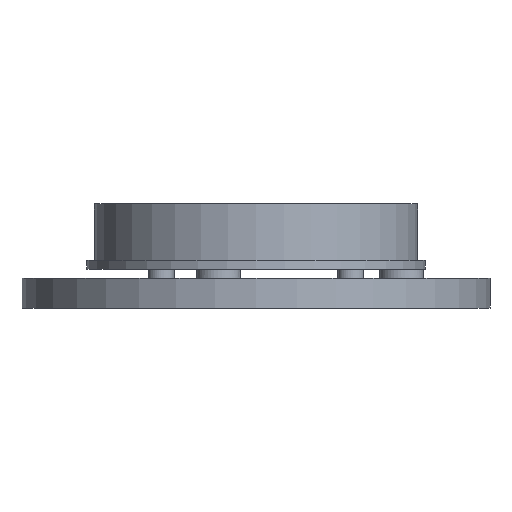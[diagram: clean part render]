
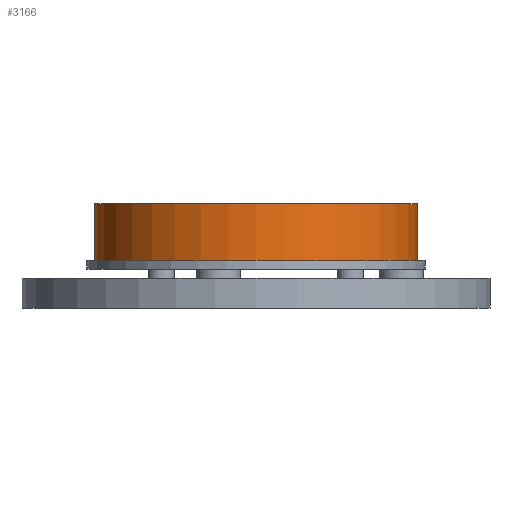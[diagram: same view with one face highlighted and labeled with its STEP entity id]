
A CAD part, front view. The second image highlights one B-rep face of the part: STEP entity #3166.
In plain terms, the highlighted cylindrical face has radius 20.025 mm (diameter 40.05 mm), a full revolution.
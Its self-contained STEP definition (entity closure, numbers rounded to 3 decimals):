
#3114 = PLANE('',#3115);
#3115 = AXIS2_PLACEMENT_3D('',#3116,#3117,#3118);
#3116 = CARTESIAN_POINT('',(0.,0.,6.1)
  );
#3117 = DIRECTION('',(0.,0.,1.));
#3118 = DIRECTION('',(1.,0.,-0.));
#3134 = EDGE_CURVE('',#3135,#3135,#3137,.T.);
#3135 = VERTEX_POINT('',#3136);
#3136 = CARTESIAN_POINT('',(20.025,0.,6.1));
#3137 = SURFACE_CURVE('',#3138,(#3143,#3154),.PCURVE_S1.);
#3138 = CIRCLE('',#3139,20.025);
#3139 = AXIS2_PLACEMENT_3D('',#3140,#3141,#3142);
#3140 = CARTESIAN_POINT('',(0.,0.,6.1));
#3141 = DIRECTION('',(0.,0.,-1.));
#3142 = DIRECTION('',(1.,0.,0.));
#3143 = PCURVE('',#3114,#3144);
#3144 = DEFINITIONAL_REPRESENTATION('',(#3145),#3153);
#3145 = ( BOUNDED_CURVE() B_SPLINE_CURVE(2,(#3146,#3147,#3148,#3149,
#3150,#3151,#3152),.UNSPECIFIED.,.T.,.F.) B_SPLINE_CURVE_WITH_KNOTS((1,2
    ,2,2,2,1),(-2.094,0.,2.094,4.189,
6.283,8.378),.UNSPECIFIED.) CURVE() 
GEOMETRIC_REPRESENTATION_ITEM() RATIONAL_B_SPLINE_CURVE((1.,0.5,1.,0.5,
1.,0.5,1.)) REPRESENTATION_ITEM('') );
#3146 = CARTESIAN_POINT('',(20.025,0.));
#3147 = CARTESIAN_POINT('',(20.025,-34.684));
#3148 = CARTESIAN_POINT('',(-10.013,-17.342));
#3149 = CARTESIAN_POINT('',(-40.05,0.));
#3150 = CARTESIAN_POINT('',(-10.013,17.342));
#3151 = CARTESIAN_POINT('',(20.025,34.684));
#3152 = CARTESIAN_POINT('',(20.025,0.));
#3153 = ( GEOMETRIC_REPRESENTATION_CONTEXT(2) 
PARAMETRIC_REPRESENTATION_CONTEXT() REPRESENTATION_CONTEXT('2D SPACE',''
  ) );
#3154 = PCURVE('',#3155,#3160);
#3155 = CYLINDRICAL_SURFACE('',#3156,20.025);
#3156 = AXIS2_PLACEMENT_3D('',#3157,#3158,#3159);
#3157 = CARTESIAN_POINT('',(0.,0.,5.));
#3158 = DIRECTION('',(-0.,-0.,-1.));
#3159 = DIRECTION('',(1.,0.,0.));
#3160 = DEFINITIONAL_REPRESENTATION('',(#3161),#3165);
#3161 = LINE('',#3162,#3163);
#3162 = CARTESIAN_POINT('',(-6.283,-1.1));
#3163 = VECTOR('',#3164,1.);
#3164 = DIRECTION('',(1.,-0.));
#3165 = ( GEOMETRIC_REPRESENTATION_CONTEXT(2) 
PARAMETRIC_REPRESENTATION_CONTEXT() REPRESENTATION_CONTEXT('2D SPACE',''
  ) );
#3166 = ADVANCED_FACE('',(#3167),#3155,.T.);
#3167 = FACE_BOUND('',#3168,.F.);
#3168 = EDGE_LOOP('',(#3169,#3170,#3193,#3220));
#3169 = ORIENTED_EDGE('',*,*,#3134,.T.);
#3170 = ORIENTED_EDGE('',*,*,#3171,.T.);
#3171 = EDGE_CURVE('',#3135,#3172,#3174,.T.);
#3172 = VERTEX_POINT('',#3173);
#3173 = CARTESIAN_POINT('',(20.025,0.,13.1));
#3174 = SEAM_CURVE('',#3175,(#3179,#3186),.PCURVE_S1.);
#3175 = LINE('',#3176,#3177);
#3176 = CARTESIAN_POINT('',(20.025,0.,5.));
#3177 = VECTOR('',#3178,1.);
#3178 = DIRECTION('',(0.,0.,1.));
#3179 = PCURVE('',#3155,#3180);
#3180 = DEFINITIONAL_REPRESENTATION('',(#3181),#3185);
#3181 = LINE('',#3182,#3183);
#3182 = CARTESIAN_POINT('',(-0.,0.));
#3183 = VECTOR('',#3184,1.);
#3184 = DIRECTION('',(-0.,-1.));
#3185 = ( GEOMETRIC_REPRESENTATION_CONTEXT(2) 
PARAMETRIC_REPRESENTATION_CONTEXT() REPRESENTATION_CONTEXT('2D SPACE',''
  ) );
#3186 = PCURVE('',#3155,#3187);
#3187 = DEFINITIONAL_REPRESENTATION('',(#3188),#3192);
#3188 = LINE('',#3189,#3190);
#3189 = CARTESIAN_POINT('',(-6.283,0.));
#3190 = VECTOR('',#3191,1.);
#3191 = DIRECTION('',(-0.,-1.));
#3192 = ( GEOMETRIC_REPRESENTATION_CONTEXT(2) 
PARAMETRIC_REPRESENTATION_CONTEXT() REPRESENTATION_CONTEXT('2D SPACE',''
  ) );
#3193 = ORIENTED_EDGE('',*,*,#3194,.T.);
#3194 = EDGE_CURVE('',#3172,#3172,#3195,.T.);
#3195 = SURFACE_CURVE('',#3196,(#3201,#3208),.PCURVE_S1.);
#3196 = CIRCLE('',#3197,20.025);
#3197 = AXIS2_PLACEMENT_3D('',#3198,#3199,#3200);
#3198 = CARTESIAN_POINT('',(0.,0.,13.1));
#3199 = DIRECTION('',(0.,0.,1.));
#3200 = DIRECTION('',(1.,0.,0.));
#3201 = PCURVE('',#3155,#3202);
#3202 = DEFINITIONAL_REPRESENTATION('',(#3203),#3207);
#3203 = LINE('',#3204,#3205);
#3204 = CARTESIAN_POINT('',(-0.,-8.1));
#3205 = VECTOR('',#3206,1.);
#3206 = DIRECTION('',(-1.,0.));
#3207 = ( GEOMETRIC_REPRESENTATION_CONTEXT(2) 
PARAMETRIC_REPRESENTATION_CONTEXT() REPRESENTATION_CONTEXT('2D SPACE',''
  ) );
#3208 = PCURVE('',#3209,#3214);
#3209 = PLANE('',#3210);
#3210 = AXIS2_PLACEMENT_3D('',#3211,#3212,#3213);
#3211 = CARTESIAN_POINT('',(0.,0.,13.1));
#3212 = DIRECTION('',(0.,0.,1.));
#3213 = DIRECTION('',(1.,0.,-0.));
#3214 = DEFINITIONAL_REPRESENTATION('',(#3215),#3219);
#3215 = CIRCLE('',#3216,20.025);
#3216 = AXIS2_PLACEMENT_2D('',#3217,#3218);
#3217 = CARTESIAN_POINT('',(0.,0.));
#3218 = DIRECTION('',(1.,0.));
#3219 = ( GEOMETRIC_REPRESENTATION_CONTEXT(2) 
PARAMETRIC_REPRESENTATION_CONTEXT() REPRESENTATION_CONTEXT('2D SPACE',''
  ) );
#3220 = ORIENTED_EDGE('',*,*,#3171,.F.);
